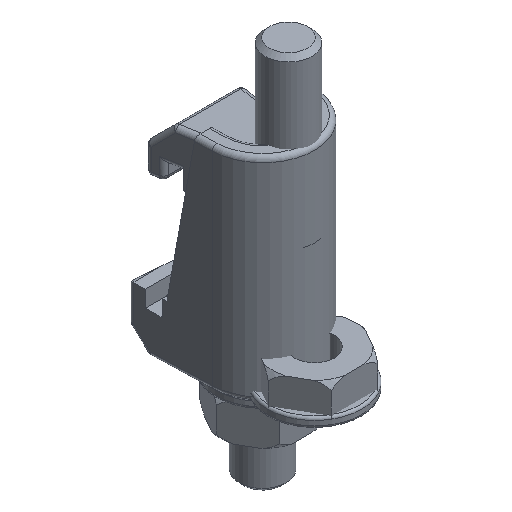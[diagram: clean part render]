
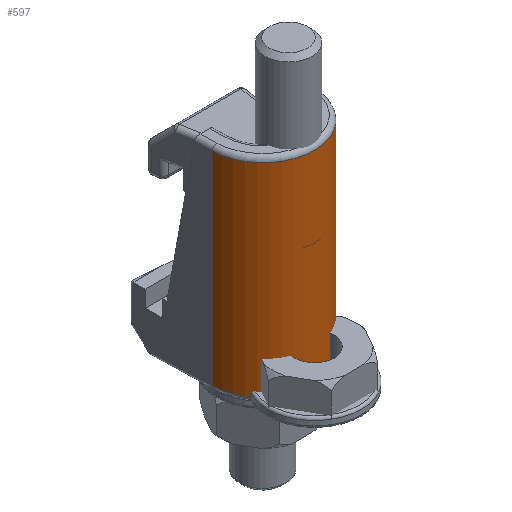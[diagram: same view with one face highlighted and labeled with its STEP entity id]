
A CAD part, isometric view. The second image highlights one B-rep face of the part: STEP entity #597.
In plain terms, the highlighted cylindrical face has radius 11 mm (diameter 22 mm), a partial arc.
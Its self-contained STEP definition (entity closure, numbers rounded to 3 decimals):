
#597 = ADVANCED_FACE( '', ( #854 ), #855, .T. );
#854 = FACE_OUTER_BOUND( '', #1120, .T. );
#855 = CYLINDRICAL_SURFACE( '', #1121, 11. );
#1120 = EDGE_LOOP( '', ( #1481, #1482, #1483, #1484 ) );
#1121 = AXIS2_PLACEMENT_3D( '', #1485, #1486, #1487 );
#1481 = ORIENTED_EDGE( '', *, *, #2372, .F. );
#1482 = ORIENTED_EDGE( '', *, *, #2373, .T. );
#1483 = ORIENTED_EDGE( '', *, *, #2356, .T. );
#1484 = ORIENTED_EDGE( '', *, *, #2371, .T. );
#1485 = CARTESIAN_POINT( '', ( 0., 11., 45. ) );
#1486 = DIRECTION( '', ( 0., 0., 1. ) );
#1487 = DIRECTION( '', ( -1., 0., 0. ) );
#2356 = EDGE_CURVE( '', #2624, #2625, #2626, .T. );
#2371 = EDGE_CURVE( '', #2625, #2650, #2652, .F. );
#2372 = EDGE_CURVE( '', #2653, #2650, #2654, .T. );
#2373 = EDGE_CURVE( '', #2653, #2624, #2655, .T. );
#2624 = VERTEX_POINT( '', #2970 );
#2625 = VERTEX_POINT( '', #2971 );
#2626 = LINE( '', #2972, #2973 );
#2650 = VERTEX_POINT( '', #3008 );
#2652 = CIRCLE( '', #3010, 11. );
#2653 = VERTEX_POINT( '', #3011 );
#2654 = LINE( '', #3012, #3013 );
#2655 = CIRCLE( '', #3014, 11. );
#2970 = CARTESIAN_POINT( '', ( -10.995, 10.68, 44. ) );
#2971 = CARTESIAN_POINT( '', ( -10.995, 10.68, 1. ) );
#2972 = CARTESIAN_POINT( '', ( -10.995, 10.68, 45. ) );
#2973 = VECTOR( '', #3366, 1000. );
#3008 = CARTESIAN_POINT( '', ( 10.995, 10.68, 1. ) );
#3010 = AXIS2_PLACEMENT_3D( '', #3387, #3388, #3389 );
#3011 = CARTESIAN_POINT( '', ( 10.995, 10.68, 44. ) );
#3012 = CARTESIAN_POINT( '', ( 10.995, 10.68, 45. ) );
#3013 = VECTOR( '', #3390, 1000. );
#3014 = AXIS2_PLACEMENT_3D( '', #3391, #3392, #3393 );
#3366 = DIRECTION( '', ( 0., 0., -1. ) );
#3387 = CARTESIAN_POINT( '', ( 0., 11., 1. ) );
#3388 = DIRECTION( '', ( 0., 0., -1. ) );
#3389 = DIRECTION( '', ( -1., 0., 0. ) );
#3390 = DIRECTION( '', ( 0., 0., -1. ) );
#3391 = CARTESIAN_POINT( '', ( 0., 11., 44. ) );
#3392 = DIRECTION( '', ( 0., 0., -1. ) );
#3393 = DIRECTION( '', ( -1., 0., 0. ) );
